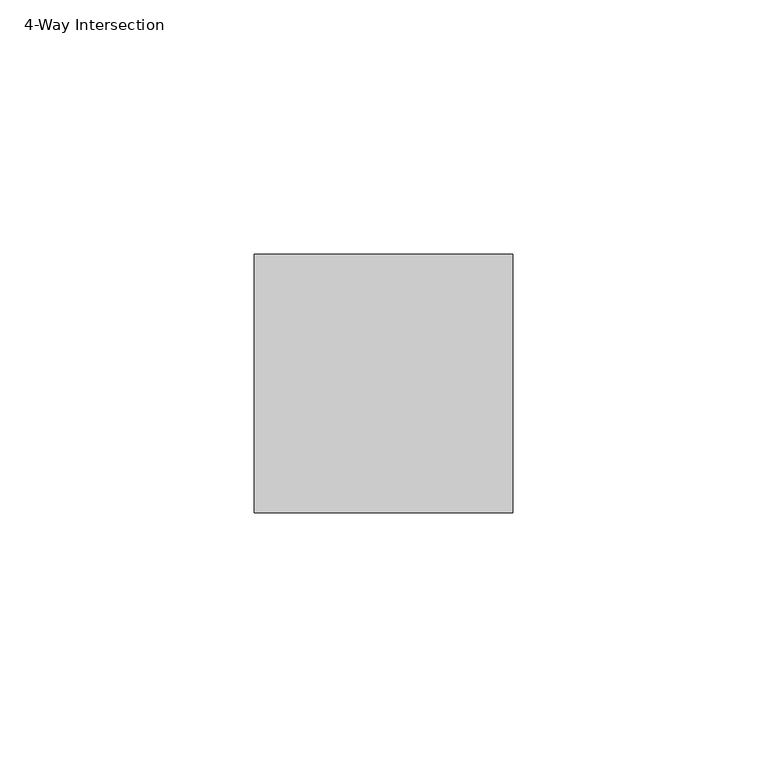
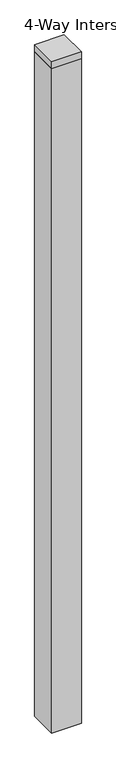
"""IFC4 building model written with IfcOpenShell, lengths in millimetres: furniture geometry, Haworth_UniGroupToo_Post : 4-Way Intersection."""

from ifc_helpers import new_model, si_unit, frame, origin, origin_with_axes, place, context, project, spatial, polyline, outline, extrude, source, transform, mapped, element, save


def furniture_4_way_intersection_cb2a0617(model_context):
    return source(origin(), model_context, "Body", "SweptSolid", [
        extrude(outline(polyline([(12.7, -25.4), (12.7, 25.4), (63.5, 25.4), (63.5, -25.4), (12.7, -25.4)])), origin_with_axes(), (0.0, 0.0, 1.0), 1206.5),
        extrude(outline(polyline([(12.7, -25.4), (12.7, 25.4), (63.5, 25.4), (63.5, -25.4), (12.7, -25.4)])), frame((0.0, 0.0, 1206.5), z_axis=(0.0, 0.0, 1.0), x_axis=(1.0, 0.0, 0.0)), (0.0, 0.0, 1.0), 12.7),
    ])


if __name__ == "__main__":
    model = new_model("IFC4")
    model_context = context("Model", 3, world=origin())
    ifc_project = project(units=[si_unit("LENGTHUNIT", "METRE", prefix="MILLI")], contexts=[model_context])
    site = spatial("IfcSite", under=ifc_project)
    building = spatial("IfcBuilding", under=site)
    placement = place(None, origin())
    furniture_4_way_intersection_shape = furniture_4_way_intersection_cb2a0617(model_context)
    element("IfcFurniture", 1, ObjectType="Haworth_UniGroupToo_Post : 4-Way Intersection", at=placement, inside=building, context=model_context, shape_type="MappedRepresentation", body=[
        mapped(furniture_4_way_intersection_shape, transform((0.0, 0.0, 0.0), x_axis=(1.0, 0.0, 0.0), y_axis=(0.0, 1.0, 0.0), z_axis=(0.0, 0.0, 1.0))),
    ])
    save(model, "model.ifc")
